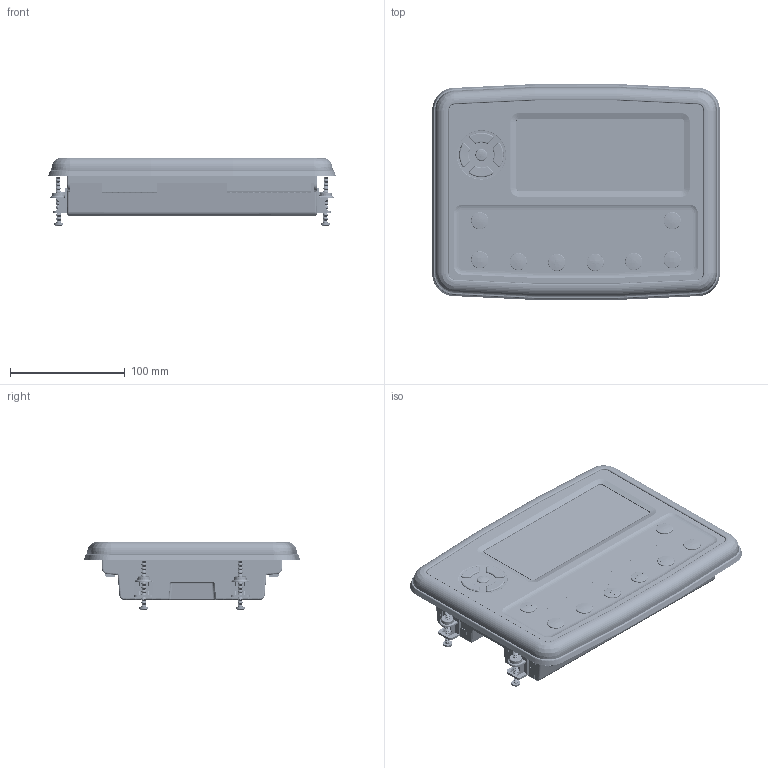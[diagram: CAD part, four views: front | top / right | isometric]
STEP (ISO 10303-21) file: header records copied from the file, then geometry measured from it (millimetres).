
FILE_DESCRIPTION (( 'STEP AP214' ), '1' );
FILE_NAME ('DSE_G8680.STEP', '2023-04-21T12:07:37', ( '' ), ( '' ), 'SwSTEP 2.0', 'SolidWorks 2022', '' );
FILE_SCHEMA (( 'AUTOMOTIVE_DESIGN' ));
Length unit declared in the file: millimetre
Products named in the file (1): DSE_G8680
Bounding box: 250.21 x 187.88 x 59.9 mm (x, y, z)
Volume: 1524781.8 mm3; surface area: 211788.6 mm2
Topology: 12 solids, 24 shells, 6383 faces, 16832 edges, 10641 vertices
Faces by surface type: plane 3237, cone 1245, cylinder 1161, bspline 619, torus 85, sphere 36
Entity records: 221875 total; most frequent: CARTESIAN_POINT 63022, ORIENTED_EDGE 33632, DIRECTION 29939, EDGE_CURVE 16816, VERTEX_POINT 10637, VECTOR 10147, LINE 10147, AXIS2_PLACEMENT_3D 9896
